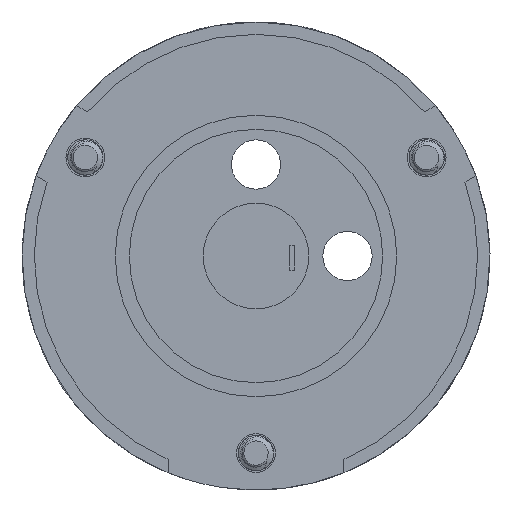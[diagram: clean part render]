
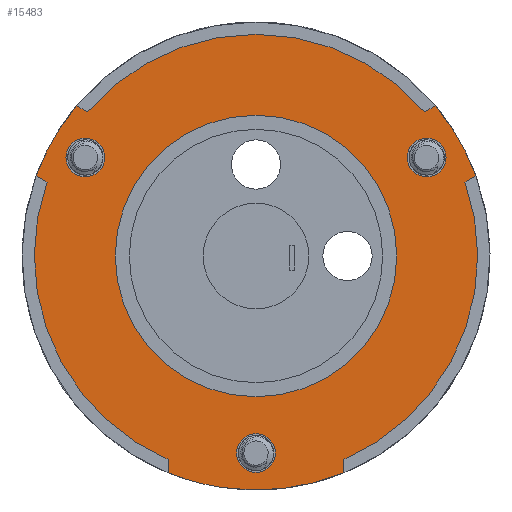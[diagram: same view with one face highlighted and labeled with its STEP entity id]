
A CAD part, front view. The second image highlights one B-rep face of the part: STEP entity #15483.
In plain terms, the highlighted planar face has unit normal (0, -1, 0).
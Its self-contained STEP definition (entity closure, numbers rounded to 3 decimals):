
#236 = CARTESIAN_POINT ( 'NONE',  ( -29.696, 0., 10.506 ) ) ;
#320 = DIRECTION ( 'NONE',  ( -0.866, 0., 0.5 ) ) ;
#481 = EDGE_CURVE ( 'NONE', #6653, #6653, #24371, .T. ) ;
#603 = EDGE_LOOP ( 'NONE', ( #2595 ) ) ;
#649 = VERTEX_POINT ( 'NONE', #10192 ) ;
#701 = VECTOR ( 'NONE', #3136, 1000. ) ;
#719 = FACE_OUTER_BOUND ( 'NONE', #15974, .T. ) ;
#947 = VERTEX_POINT ( 'NONE', #22588 ) ;
#1435 = ORIENTED_EDGE ( 'NONE', *, *, #5158, .F. ) ;
#1584 = LINE ( 'NONE', #23293, #6066 ) ;
#1901 = CIRCLE ( 'NONE', #3443, 2.75 ) ;
#1962 = FACE_BOUND ( 'NONE', #11452, .T. ) ;
#2167 = CIRCLE ( 'NONE', #5111, 31.5 ) ;
#2208 = AXIS2_PLACEMENT_3D ( 'NONE', #10268, #10263, #11516 ) ;
#2591 = EDGE_CURVE ( 'NONE', #23809, #5137, #16362, .T. ) ;
#2595 = ORIENTED_EDGE ( 'NONE', *, *, #3586, .T. ) ;
#2666 = EDGE_CURVE ( 'NONE', #649, #17711, #2167, .T. ) ;
#2833 = AXIS2_PLACEMENT_3D ( 'NONE', #3641, #3622, #3617 ) ;
#3068 = EDGE_CURVE ( 'NONE', #11214, #11214, #14815, .T. ) ;
#3101 = ORIENTED_EDGE ( 'NONE', *, *, #21936, .F. ) ;
#3136 = DIRECTION ( 'NONE',  ( 0.866, 0., -0.5 ) ) ;
#3390 = CARTESIAN_POINT ( 'NONE',  ( -25.487, 0., 21.354 ) ) ;
#3443 = AXIS2_PLACEMENT_3D ( 'NONE', #10938, #24413, #12900 ) ;
#3586 = EDGE_CURVE ( 'NONE', #947, #947, #22200, .T. ) ;
#3617 = DIRECTION ( 'NONE',  ( 0., 0., 1. ) ) ;
#3622 = DIRECTION ( 'NONE',  ( 0., 1., 0. ) ) ;
#3641 = CARTESIAN_POINT ( 'NONE',  ( -24.249, 0., 14. ) ) ;
#3778 = VERTEX_POINT ( 'NONE', #3390 ) ;
#4296 = EDGE_CURVE ( 'NONE', #10115, #5879, #6200, .T. ) ;
#4465 = DIRECTION ( 'NONE',  ( 0., 1., 0. ) ) ;
#4524 = VERTEX_POINT ( 'NONE', #24826 ) ;
#5111 = AXIS2_PLACEMENT_3D ( 'NONE', #20400, #20395, #20362 ) ;
#5137 = VERTEX_POINT ( 'NONE', #14205 ) ;
#5158 = EDGE_CURVE ( 'NONE', #5561, #14299, #24368, .T. ) ;
#5200 = VERTEX_POINT ( 'NONE', #13630 ) ;
#5561 = VERTEX_POINT ( 'NONE', #7352 ) ;
#5754 = CARTESIAN_POINT ( 'NONE',  ( -31.237, 0., 11.395 ) ) ;
#5879 = VERTEX_POINT ( 'NONE', #5754 ) ;
#6066 = VECTOR ( 'NONE', #21431, 1000. ) ;
#6124 = AXIS2_PLACEMENT_3D ( 'NONE', #20805, #20799, #20770 ) ;
#6200 = LINE ( 'NONE', #236, #6816 ) ;
#6234 = ORIENTED_EDGE ( 'NONE', *, *, #481, .F. ) ;
#6316 = EDGE_CURVE ( 'NONE', #5137, #18461, #10862, .T. ) ;
#6653 = VERTEX_POINT ( 'NONE', #16778 ) ;
#6767 = ORIENTED_EDGE ( 'NONE', *, *, #9813, .F. ) ;
#6816 = VECTOR ( 'NONE', #320, 1000. ) ;
#6923 = PLANE ( 'NONE',  #16431 ) ;
#7000 = ORIENTED_EDGE ( 'NONE', *, *, #8282, .F. ) ;
#7009 = DIRECTION ( 'NONE',  ( 0., 1., 0. ) ) ;
#7352 = CARTESIAN_POINT ( 'NONE',  ( -12.5, 0., -30.811 ) ) ;
#7353 = CARTESIAN_POINT ( 'NONE',  ( 24.249, 0., 16.75 ) ) ;
#7473 = CARTESIAN_POINT ( 'NONE',  ( 0., 0., 0. ) ) ;
#7536 = ORIENTED_EDGE ( 'NONE', *, *, #3068, .T. ) ;
#7684 = LINE ( 'NONE', #8398, #17902 ) ;
#7861 = AXIS2_PLACEMENT_3D ( 'NONE', #7473, #20949, #9414 ) ;
#7906 = DIRECTION ( 'NONE',  ( 0., 1., 0. ) ) ;
#8168 = VERTEX_POINT ( 'NONE', #7353 ) ;
#8282 = EDGE_CURVE ( 'NONE', #4524, #5200, #15730, .T. ) ;
#8398 = CARTESIAN_POINT ( 'NONE',  ( 23.946, 0., 20.465 ) ) ;
#8705 = ORIENTED_EDGE ( 'NONE', *, *, #21039, .T. ) ;
#8837 = EDGE_LOOP ( 'NONE', ( #6234 ) ) ;
#9414 = DIRECTION ( 'NONE',  ( 0., 0., 1. ) ) ;
#9631 = CARTESIAN_POINT ( 'NONE',  ( 12.5, 0., -28.914 ) ) ;
#9714 = CARTESIAN_POINT ( 'NONE',  ( 0., 0., 0. ) ) ;
#9813 = EDGE_CURVE ( 'NONE', #17711, #4524, #7684, .T. ) ;
#10115 = VERTEX_POINT ( 'NONE', #12481 ) ;
#10192 = CARTESIAN_POINT ( 'NONE',  ( -23.946, 0., 20.465 ) ) ;
#10263 = DIRECTION ( 'NONE',  ( 0., 1., 0. ) ) ;
#10268 = CARTESIAN_POINT ( 'NONE',  ( 0., 0., -28. ) ) ;
#10606 = CARTESIAN_POINT ( 'NONE',  ( 29.696, 0., 10.506 ) ) ;
#10645 = CARTESIAN_POINT ( 'NONE',  ( -12.5, 0., -28.914 ) ) ;
#10862 = LINE ( 'NONE', #9631, #20497 ) ;
#10867 = ORIENTED_EDGE ( 'NONE', *, *, #18425, .F. ) ;
#10938 = CARTESIAN_POINT ( 'NONE',  ( 24.249, 0., 14. ) ) ;
#10964 = LINE ( 'NONE', #18538, #701 ) ;
#11214 = VERTEX_POINT ( 'NONE', #20668 ) ;
#11452 = EDGE_LOOP ( 'NONE', ( #7536 ) ) ;
#11516 = DIRECTION ( 'NONE',  ( 0., 0., 1. ) ) ;
#11657 = DIRECTION ( 'NONE',  ( 0., 0., 1. ) ) ;
#12481 = CARTESIAN_POINT ( 'NONE',  ( -29.696, 0., 10.506 ) ) ;
#12622 = DIRECTION ( 'NONE',  ( 0., 0., -1. ) ) ;
#12656 = EDGE_LOOP ( 'NONE', ( #8705 ) ) ;
#12674 = DIRECTION ( 'NONE',  ( 0., -1., 0. ) ) ;
#12722 = ORIENTED_EDGE ( 'NONE', *, *, #23079, .F. ) ;
#12823 = CARTESIAN_POINT ( 'NONE',  ( 0., 0., 0. ) ) ;
#12900 = DIRECTION ( 'NONE',  ( 0., 0., 1. ) ) ;
#13111 = CIRCLE ( 'NONE', #20660, 31.5 ) ;
#13555 = DIRECTION ( 'NONE',  ( 0., 0., 1. ) ) ;
#13630 = CARTESIAN_POINT ( 'NONE',  ( 31.237, 0., 11.395 ) ) ;
#13968 = ORIENTED_EDGE ( 'NONE', *, *, #24561, .F. ) ;
#14205 = CARTESIAN_POINT ( 'NONE',  ( 12.5, 0., -28.914 ) ) ;
#14299 = VERTEX_POINT ( 'NONE', #10645 ) ;
#14815 = CIRCLE ( 'NONE', #2208, 2.75 ) ;
#14906 = CARTESIAN_POINT ( 'NONE',  ( 23.946, 0., 20.465 ) ) ;
#15329 = ORIENTED_EDGE ( 'NONE', *, *, #2666, .F. ) ;
#15483 = ADVANCED_FACE ( 'NONE', ( #16992, #17903, #1962, #18204, #719 ), #6923, .F. ) ;
#15730 = CIRCLE ( 'NONE', #7861, 33.25 ) ;
#15771 = CARTESIAN_POINT ( 'NONE',  ( -12.5, 0., -28.914 ) ) ;
#15974 = EDGE_LOOP ( 'NONE', ( #21266, #3101, #1435, #10867, #22732, #20336, #13968, #7000, #6767, #15329, #22778, #12722 ) ) ;
#15993 = CARTESIAN_POINT ( 'NONE',  ( 0., 0., 0. ) ) ;
#16362 = CIRCLE ( 'NONE', #6124, 31.5 ) ;
#16431 = AXIS2_PLACEMENT_3D ( 'NONE', #18564, #7009, #20509 ) ;
#16778 = CARTESIAN_POINT ( 'NONE',  ( 0., 0., -20. ) ) ;
#16992 = FACE_BOUND ( 'NONE', #8837, .T. ) ;
#17241 = CIRCLE ( 'NONE', #22269, 33.25 ) ;
#17711 = VERTEX_POINT ( 'NONE', #14906 ) ;
#17902 = VECTOR ( 'NONE', #21873, 1000. ) ;
#17903 = FACE_BOUND ( 'NONE', #12656, .T. ) ;
#17937 = DIRECTION ( 'NONE',  ( 0., 0., -1. ) ) ;
#18204 = FACE_BOUND ( 'NONE', #603, .T. ) ;
#18425 = EDGE_CURVE ( 'NONE', #18461, #5561, #20237, .T. ) ;
#18461 = VERTEX_POINT ( 'NONE', #21241 ) ;
#18538 = CARTESIAN_POINT ( 'NONE',  ( -23.946, 0., 20.465 ) ) ;
#18564 = CARTESIAN_POINT ( 'NONE',  ( 0., 0., 0. ) ) ;
#19455 = CARTESIAN_POINT ( 'NONE',  ( 0., 0., 0. ) ) ;
#20095 = AXIS2_PLACEMENT_3D ( 'NONE', #12823, #12674, #12622 ) ;
#20237 = CIRCLE ( 'NONE', #21835, 33.25 ) ;
#20336 = ORIENTED_EDGE ( 'NONE', *, *, #2591, .F. ) ;
#20362 = DIRECTION ( 'NONE',  ( 0., 0., -1. ) ) ;
#20395 = DIRECTION ( 'NONE',  ( 0., 1., 0. ) ) ;
#20400 = CARTESIAN_POINT ( 'NONE',  ( 0., 0., 0. ) ) ;
#20497 = VECTOR ( 'NONE', #21807, 1000. ) ;
#20509 = DIRECTION ( 'NONE',  ( 0., 0., 1. ) ) ;
#20660 = AXIS2_PLACEMENT_3D ( 'NONE', #15993, #4465, #17937 ) ;
#20668 = CARTESIAN_POINT ( 'NONE',  ( 0., 0., -25.25 ) ) ;
#20770 = DIRECTION ( 'NONE',  ( 0., 0., -1. ) ) ;
#20799 = DIRECTION ( 'NONE',  ( 0., 1., 0. ) ) ;
#20805 = CARTESIAN_POINT ( 'NONE',  ( 0., 0., 0. ) ) ;
#20949 = DIRECTION ( 'NONE',  ( 0., 1., 0. ) ) ;
#21039 = EDGE_CURVE ( 'NONE', #8168, #8168, #1901, .T. ) ;
#21241 = CARTESIAN_POINT ( 'NONE',  ( 12.5, 0., -30.811 ) ) ;
#21266 = ORIENTED_EDGE ( 'NONE', *, *, #4296, .F. ) ;
#21380 = DIRECTION ( 'NONE',  ( 0., 0., 1. ) ) ;
#21431 = DIRECTION ( 'NONE',  ( -0.866, 0., -0.5 ) ) ;
#21807 = DIRECTION ( 'NONE',  ( 0., 0., -1. ) ) ;
#21835 = AXIS2_PLACEMENT_3D ( 'NONE', #9714, #23171, #11657 ) ;
#21873 = DIRECTION ( 'NONE',  ( 0.866, 0., 0.5 ) ) ;
#21936 = EDGE_CURVE ( 'NONE', #14299, #10115, #13111, .T. ) ;
#22200 = CIRCLE ( 'NONE', #2833, 2.75 ) ;
#22269 = AXIS2_PLACEMENT_3D ( 'NONE', #19455, #7906, #21380 ) ;
#22588 = CARTESIAN_POINT ( 'NONE',  ( -24.249, 0., 16.75 ) ) ;
#22626 = EDGE_CURVE ( 'NONE', #3778, #649, #10964, .T. ) ;
#22732 = ORIENTED_EDGE ( 'NONE', *, *, #6316, .F. ) ;
#22778 = ORIENTED_EDGE ( 'NONE', *, *, #22626, .F. ) ;
#23079 = EDGE_CURVE ( 'NONE', #5879, #3778, #17241, .T. ) ;
#23171 = DIRECTION ( 'NONE',  ( 0., 1., 0. ) ) ;
#23293 = CARTESIAN_POINT ( 'NONE',  ( 29.696, 0., 10.506 ) ) ;
#23809 = VERTEX_POINT ( 'NONE', #10606 ) ;
#24368 = LINE ( 'NONE', #15771, #24978 ) ;
#24371 = CIRCLE ( 'NONE', #20095, 20. ) ;
#24413 = DIRECTION ( 'NONE',  ( 0., 1., 0. ) ) ;
#24561 = EDGE_CURVE ( 'NONE', #5200, #23809, #1584, .T. ) ;
#24826 = CARTESIAN_POINT ( 'NONE',  ( 25.487, 0., 21.354 ) ) ;
#24978 = VECTOR ( 'NONE', #13555, 1000. ) ;
